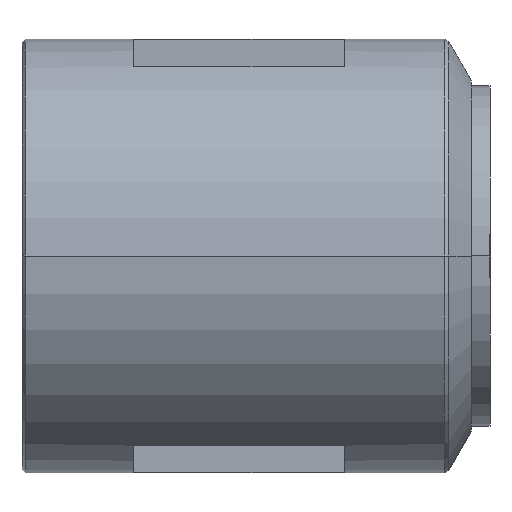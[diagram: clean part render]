
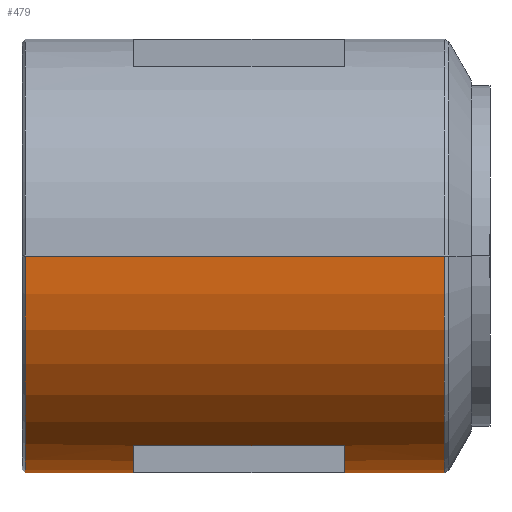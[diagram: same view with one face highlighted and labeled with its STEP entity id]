
A CAD part, left-side view. The second image highlights one B-rep face of the part: STEP entity #479.
In plain terms, the highlighted cylindrical face has radius 35 mm (diameter 70 mm), a partial arc.
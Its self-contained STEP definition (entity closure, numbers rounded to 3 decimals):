
#281=CARTESIAN_POINT('',(-35.0,54.25,0.));
#282=VERTEX_POINT('',#281);
#298=CARTESIAN_POINT('',(35.0,54.25,0.0));
#299=VERTEX_POINT('',#298);
#306=CARTESIAN_POINT('',(0.0,54.25,0.0));
#307=DIRECTION('',(0.0,1.0,0.0));
#308=DIRECTION('',(-1.0,0.0,0.0));
#309=AXIS2_PLACEMENT_3D('',#306,#307,#308);
#310=CIRCLE('',#309,35.0);
#311=EDGE_CURVE('',#299,#282,#310,.T.);
#358=CARTESIAN_POINT('',(0.0,-17.75,0.0));
#359=DIRECTION('',(0.0,1.0,0.0));
#360=DIRECTION('',(1.0,0.0,0.0));
#361=AXIS2_PLACEMENT_3D('',#358,#359,#360);
#362=CYLINDRICAL_SURFACE('',#361,35.0);
#363=CARTESIAN_POINT('',(35.0,-13.353,0.));
#364=VERTEX_POINT('',#363);
#365=CARTESIAN_POINT('',(35.0,-5.25,0.));
#366=VERTEX_POINT('',#365);
#367=CARTESIAN_POINT('',(35.0,-13.353,0.));
#368=DIRECTION('',(0.0,1.0,0.0));
#369=VECTOR('',#368,8.103);
#370=LINE('',#367,#369);
#371=EDGE_CURVE('',#364,#366,#370,.T.);
#372=ORIENTED_EDGE('',*,*,#371,.F.);
#373=CARTESIAN_POINT('',(-35.0,-13.353,0.0));
#374=VERTEX_POINT('',#373);
#375=CARTESIAN_POINT('',(0.0,-13.353,0.0));
#376=DIRECTION('',(0.0,-1.0,0.0));
#377=DIRECTION('',(1.0,0.0,0.0));
#378=AXIS2_PLACEMENT_3D('',#375,#376,#377);
#379=CIRCLE('',#378,35.0);
#380=EDGE_CURVE('',#374,#364,#379,.T.);
#381=ORIENTED_EDGE('',*,*,#380,.F.);
#382=CARTESIAN_POINT('',(-35.0,54.25,0.));
#383=DIRECTION('',(0.0,-1.0,0.0));
#384=VECTOR('',#383,67.603);
#385=LINE('',#382,#384);
#386=EDGE_CURVE('',#282,#374,#385,.T.);
#387=ORIENTED_EDGE('',*,*,#386,.F.);
#388=ORIENTED_EDGE('',*,*,#311,.F.);
#389=CARTESIAN_POINT('',(35.0,44.75,0.));
#390=VERTEX_POINT('',#389);
#391=CARTESIAN_POINT('',(35.0,44.75,0.));
#392=DIRECTION('',(0.0,1.0,0.0));
#393=VECTOR('',#392,9.5);
#394=LINE('',#391,#393);
#395=EDGE_CURVE('',#390,#299,#394,.T.);
#396=ORIENTED_EDGE('',*,*,#395,.F.);
#397=CARTESIAN_POINT('',(25.184,19.75,-24.306));
#398=VERTEX_POINT('',#397);
#399=CARTESIAN_POINT('',(35.0,44.75,0.));
#400=CARTESIAN_POINT('',(35.0,44.75,-4.549));
#401=CARTESIAN_POINT('',(34.047,43.386,-9.031));
#402=CARTESIAN_POINT('',(31.151,38.695,-16.45));
#403=CARTESIAN_POINT('',(29.225,35.41,-19.428));
#404=CARTESIAN_POINT('',(26.267,28.047,-23.242));
#405=CARTESIAN_POINT('',(25.184,23.921,-24.306));
#406=CARTESIAN_POINT('',(25.184,19.75,-24.306));
#407=B_SPLINE_CURVE_WITH_KNOTS('',3,(#399,#400,#401,#402,#403,#404,#405,#406),.UNSPECIFIED.,.F.,.U.,(4,2,2,4),(113.376,126.412,139.527,151.147),.UNSPECIFIED.);
#408=EDGE_CURVE('',#398,#390,#407,.F.);
#409=ORIENTED_EDGE('',*,*,#408,.F.);
#410=CARTESIAN_POINT('',(25.184,19.75,-24.306));
#411=CARTESIAN_POINT('',(25.184,17.987,-24.306));
#412=CARTESIAN_POINT('',(25.365,16.225,-24.122));
#413=CARTESIAN_POINT('',(26.211,11.82,-23.207));
#414=CARTESIAN_POINT('',(27.087,9.29,-22.226));
#415=CARTESIAN_POINT('',(29.617,3.395,-18.831));
#416=CARTESIAN_POINT('',(31.405,0.379,-15.916));
#417=CARTESIAN_POINT('',(34.112,-3.976,-8.73));
#418=CARTESIAN_POINT('',(35.0,-5.25,-4.384));
#419=CARTESIAN_POINT('',(35.0,-5.25,0.));
#420=B_SPLINE_CURVE_WITH_KNOTS('',3,(#410,#411,#412,#413,#414,#415,#416,#417,#418,#419),.UNSPECIFIED.,.F.,.U.,(4,2,2,2,4),(0.0,4.912,12.771,25.224,37.79),.UNSPECIFIED.);
#421=EDGE_CURVE('',#366,#398,#420,.F.);
#422=ORIENTED_EDGE('',*,*,#421,.F.);
#423=EDGE_LOOP('',(#372,#381,#387,#388,#396,#409,#422));
#424=FACE_OUTER_BOUND('',#423,.T.);
#425=CARTESIAN_POINT('',(17.,36.75,-30.594));
#426=VERTEX_POINT('',#425);
#427=CARTESIAN_POINT('',(0.0,36.75,-35.0));
#428=VERTEX_POINT('',#427);
#429=CARTESIAN_POINT('',(0.0,36.75,0.0));
#430=DIRECTION('',(0.0,1.0,0.0));
#431=DIRECTION('',(1.0,0.0,0.0));
#432=AXIS2_PLACEMENT_3D('',#429,#430,#431);
#433=CIRCLE('',#432,35.0);
#434=EDGE_CURVE('',#426,#428,#433,.T.);
#435=ORIENTED_EDGE('',*,*,#434,.T.);
#436=CARTESIAN_POINT('',(-17.,36.75,-30.594));
#437=VERTEX_POINT('',#436);
#438=CARTESIAN_POINT('',(0.0,36.75,0.0));
#439=DIRECTION('',(0.0,1.0,0.0));
#440=DIRECTION('',(1.0,0.0,0.0));
#441=AXIS2_PLACEMENT_3D('',#438,#439,#440);
#442=CIRCLE('',#441,35.0);
#443=EDGE_CURVE('',#428,#437,#442,.T.);
#444=ORIENTED_EDGE('',*,*,#443,.T.);
#445=CARTESIAN_POINT('',(-17.,2.75,-30.594));
#446=VERTEX_POINT('',#445);
#447=CARTESIAN_POINT('',(-17.,36.75,-30.594));
#448=DIRECTION('',(0.0,-1.0,0.0));
#449=VECTOR('',#448,34.0);
#450=LINE('',#447,#449);
#451=EDGE_CURVE('',#437,#446,#450,.T.);
#452=ORIENTED_EDGE('',*,*,#451,.T.);
#453=CARTESIAN_POINT('',(0.0,2.75,-35.0));
#454=VERTEX_POINT('',#453);
#455=CARTESIAN_POINT('',(0.0,2.75,0.0));
#456=DIRECTION('',(0.0,-1.0,0.0));
#457=DIRECTION('',(1.0,0.0,0.0));
#458=AXIS2_PLACEMENT_3D('',#455,#456,#457);
#459=CIRCLE('',#458,35.0);
#460=EDGE_CURVE('',#446,#454,#459,.T.);
#461=ORIENTED_EDGE('',*,*,#460,.T.);
#462=CARTESIAN_POINT('',(17.0,2.75,-30.594));
#463=VERTEX_POINT('',#462);
#464=CARTESIAN_POINT('',(0.0,2.75,0.0));
#465=DIRECTION('',(0.0,-1.0,0.0));
#466=DIRECTION('',(1.0,0.0,0.0));
#467=AXIS2_PLACEMENT_3D('',#464,#465,#466);
#468=CIRCLE('',#467,35.0);
#469=EDGE_CURVE('',#454,#463,#468,.T.);
#470=ORIENTED_EDGE('',*,*,#469,.T.);
#471=CARTESIAN_POINT('',(17.0,2.75,-30.594));
#472=DIRECTION('',(0.0,1.0,0.0));
#473=VECTOR('',#472,34.0);
#474=LINE('',#471,#473);
#475=EDGE_CURVE('',#463,#426,#474,.T.);
#476=ORIENTED_EDGE('',*,*,#475,.T.);
#477=EDGE_LOOP('',(#435,#444,#452,#461,#470,#476));
#478=FACE_BOUND('',#477,.T.);
#479=ADVANCED_FACE('',(#424,#478),#362,.T.);
